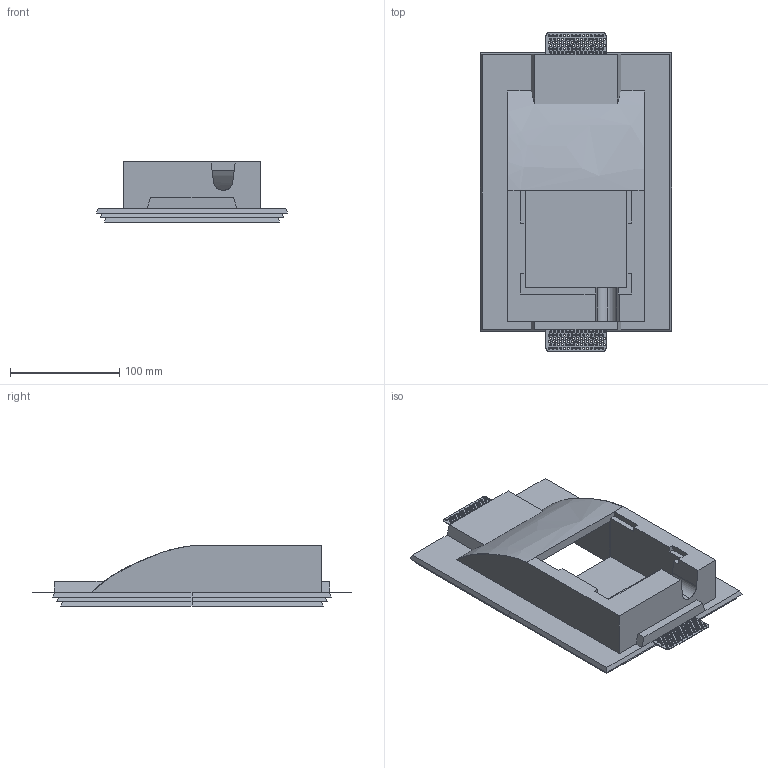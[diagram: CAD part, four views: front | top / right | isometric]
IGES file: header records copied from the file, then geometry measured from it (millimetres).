
Start section: SolidWorks IGES file using analytic representation for surfaces
Global section: file name: \\USINE\Dimitri\CATALOGUE SEDAP\Gamme Sedap\3224 - Quadrat 8x8\3224.IGS; native system: SolidWorks 2016; preprocessor: SolidWorks 2016; author: Dimitri; date: 161220.110102; units: millimetre
Bounding box: 175 x 292 x 55 mm (x, y, z)
Surface area: 150553.7 mm2 (no closed solid volume)
Topology: 0 solids, 0 shells, 443 faces, 13550 edges, 13550 vertices
Faces by surface type: revolution 366, bspline 77
